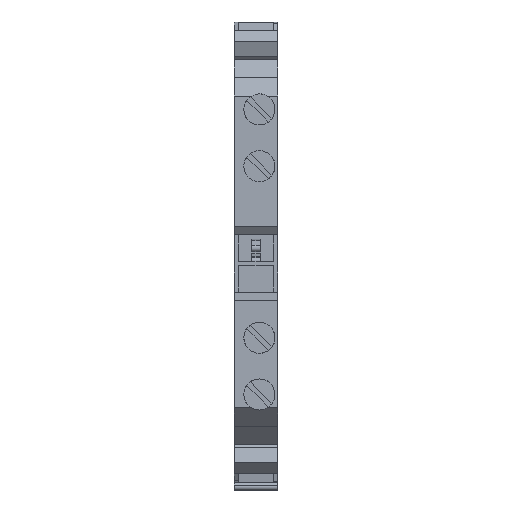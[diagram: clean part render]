
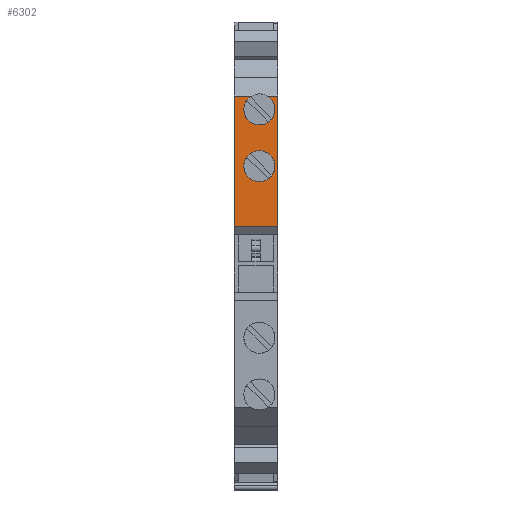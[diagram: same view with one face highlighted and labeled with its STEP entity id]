
A CAD part, top view. The second image highlights one B-rep face of the part: STEP entity #6302.
In plain terms, the highlighted planar face has unit normal (0, 0, 1).
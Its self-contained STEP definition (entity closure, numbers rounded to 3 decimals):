
#411=CARTESIAN_POINT('',(-0.,36.8,46.85));
#412=VERTEX_POINT('',#411);
#419=CARTESIAN_POINT('',(-0.,55.,46.85));
#420=VERTEX_POINT('',#419);
#421=CARTESIAN_POINT('',(-0.,36.8,46.85));
#422=DIRECTION('',(0.,1.,0.));
#423=VECTOR('',#422,18.2);
#424=LINE('',#421,#423);
#425=EDGE_CURVE('',#412,#420,#424,.T.);
#1388=CARTESIAN_POINT('',(6.15,55.,46.85));
#1389=VERTEX_POINT('',#1388);
#1396=CARTESIAN_POINT('',(6.15,36.8,46.85));
#1397=VERTEX_POINT('',#1396);
#1398=CARTESIAN_POINT('',(6.15,36.8,46.85));
#1399=DIRECTION('',(0.,1.,0.));
#1400=VECTOR('',#1399,18.2);
#1401=LINE('',#1398,#1400);
#1402=EDGE_CURVE('',#1397,#1389,#1401,.T.);
#4144=CARTESIAN_POINT('',(6.15,36.8,46.85));
#4145=DIRECTION('',(-1.,0.,0.));
#4146=VECTOR('',#4145,6.15);
#4147=LINE('',#4144,#4146);
#4148=EDGE_CURVE('',#1397,#412,#4147,.T.);
#5986=CARTESIAN_POINT('',(2.448,55.,46.85));
#5987=VERTEX_POINT('',#5986);
#5988=CARTESIAN_POINT('',(2.448,55.,46.85));
#5989=DIRECTION('',(-1.,0.,0.));
#5990=VECTOR('',#5989,2.448);
#5991=LINE('',#5988,#5990);
#5992=EDGE_CURVE('',#5987,#420,#5991,.T.);
#6002=CARTESIAN_POINT('',(4.652,55.,46.85));
#6003=VERTEX_POINT('',#6002);
#6010=CARTESIAN_POINT('',(6.15,55.,46.85));
#6011=DIRECTION('',(-1.,0.,0.));
#6012=VECTOR('',#6011,1.498);
#6013=LINE('',#6010,#6012);
#6014=EDGE_CURVE('',#1389,#6003,#6013,.T.);
#6029=CARTESIAN_POINT('',(3.55,50.95,46.85));
#6030=VERTEX_POINT('',#6029);
#6113=CARTESIAN_POINT('',(3.55,53.125,46.85));
#6114=DIRECTION('',(-0.,0.,-1.));
#6115=DIRECTION('',(-0.,1.,0.));
#6116=AXIS2_PLACEMENT_3D('',#6113,#6114,#6115);
#6117=CIRCLE('',#6116,2.175);
#6118=EDGE_CURVE('',#6003,#6030,#6117,.T.);
#6122=CARTESIAN_POINT('',(3.55,53.125,46.85));
#6123=DIRECTION('',(-0.,0.,-1.));
#6124=DIRECTION('',(-0.,1.,0.));
#6125=AXIS2_PLACEMENT_3D('',#6122,#6123,#6124);
#6126=CIRCLE('',#6125,2.175);
#6127=EDGE_CURVE('',#6030,#5987,#6126,.T.);
#6268=CARTESIAN_POINT('',(-0.157,36.342,46.85));
#6269=DIRECTION('',(0.,-0.,1.));
#6270=DIRECTION('',(0.,1.,0.));
#6271=AXIS2_PLACEMENT_3D('',#6268,#6269,#6270);
#6272=PLANE('',#6271);
#6273=CARTESIAN_POINT('',(3.55,47.375,46.85));
#6274=VERTEX_POINT('',#6273);
#6275=CARTESIAN_POINT('',(3.55,43.025,46.85));
#6276=VERTEX_POINT('',#6275);
#6277=CARTESIAN_POINT('',(3.55,45.2,46.85));
#6278=DIRECTION('',(-0.,0.,-1.));
#6279=DIRECTION('',(-0.,1.,0.));
#6280=AXIS2_PLACEMENT_3D('',#6277,#6278,#6279);
#6281=CIRCLE('',#6280,2.175);
#6282=EDGE_CURVE('',#6274,#6276,#6281,.T.);
#6283=ORIENTED_EDGE('',*,*,#6282,.T.);
#6284=CARTESIAN_POINT('',(3.55,45.2,46.85));
#6285=DIRECTION('',(-0.,0.,-1.));
#6286=DIRECTION('',(-0.,1.,0.));
#6287=AXIS2_PLACEMENT_3D('',#6284,#6285,#6286);
#6288=CIRCLE('',#6287,2.175);
#6289=EDGE_CURVE('',#6276,#6274,#6288,.T.);
#6290=ORIENTED_EDGE('',*,*,#6289,.T.);
#6291=EDGE_LOOP('',(#6283,#6290));
#6292=FACE_BOUND('',#6291,.T.);
#6293=ORIENTED_EDGE('',*,*,#425,.F.);
#6294=ORIENTED_EDGE('',*,*,#4148,.F.);
#6295=ORIENTED_EDGE('',*,*,#1402,.T.);
#6296=ORIENTED_EDGE('',*,*,#6014,.T.);
#6297=ORIENTED_EDGE('',*,*,#6118,.T.);
#6298=ORIENTED_EDGE('',*,*,#6127,.T.);
#6299=ORIENTED_EDGE('',*,*,#5992,.T.);
#6300=EDGE_LOOP('',(#6293,#6294,#6295,#6296,#6297,#6298,#6299));
#6301=FACE_BOUND('',#6300,.T.);
#6302=ADVANCED_FACE('',(#6292,#6301),#6272,.T.);
